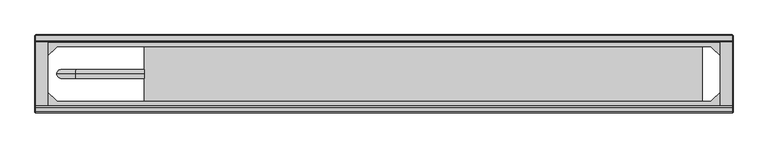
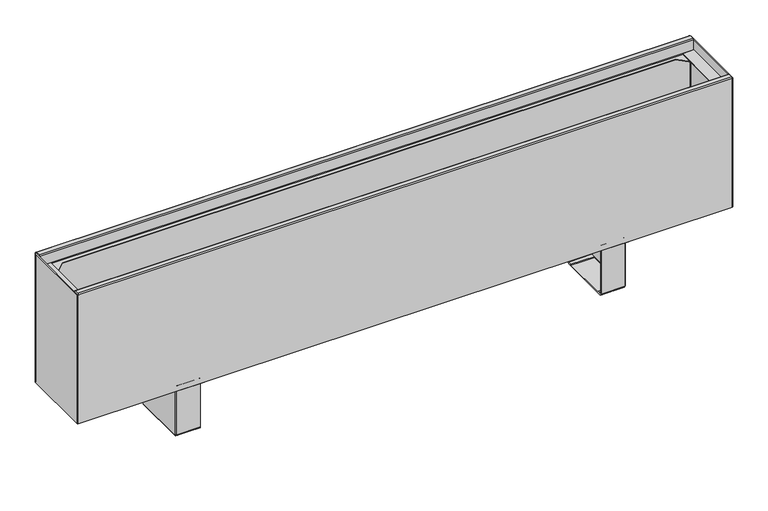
"""IFC4 building model written with IfcOpenShell, lengths in millimetres: proxy geometry, TECHNO_Конвектор напольный_Vita KPZ 135 : KPZ 135-250-2."""

from ifc_helpers import new_model, si_unit, point, frame, origin, place, context, project, spatial, polyline, circle_curve, ellipse_curve, trimmed, outline, extrude, source, transform, mapped, element, save
from ifc_brep_helpers import plane_surface, cylinder_surface, revolved_surface, advanced_brep


def mechanical_equipment_14c08a24(model_context):
    return source(origin(), model_context, "Body", "SolidModel", [
        advanced_brep(
        [(409.7, -116.8, 1.5), (409.7, -114.5, 3.8), (409.7, -114.5, 4.9), (409.7, -116.0, 4.9), (409.7, -116.0, 3.8), (409.7, -116.8, 3.0), (409.7, -124.5, 3.0), (409.7, -124.5, 1.5), (409.7, -117.6, 1.5), (409.7, -114.5, 97.7), (409.7, -113.7, 98.5), (409.7, -101.0, 98.5), (409.7, -101.0, 100.0), (409.7, -113.7, 100.0), (409.7, -116.0, 97.7), (409.7, -116.0, 95.5), (409.7, -114.5, 95.5), (409.7, -220.5, 3.8), (409.7, -218.2, 1.5), (409.7, -217.4, 1.5), (409.7, -210.5, 1.5), (409.7, -210.5, 3.0), (409.7, -218.2, 3.0), (409.7, -219.0, 3.8), (409.7, -219.0, 4.9), (409.7, -220.5, 4.9), (409.7, -219.0, 97.7), (409.7, -221.3, 100.0), (409.7, -234.0, 100.0), (409.7, -234.0, 98.5), (409.7, -221.3, 98.5), (409.7, -220.5, 97.7), (409.7, -220.5, 95.5), (409.7, -219.0, 95.5), (367.0, -220.5, 97.7), (367.0, -221.3, 98.5), (367.0, -234.0, 98.5), (367.0, -234.0, 100.0), (367.0, -221.3, 100.0), (367.0, -219.0, 97.7), (367.0, -219.0, 3.8), (367.0, -218.2, 3.0), (367.0, -210.5, 3.0), (367.0, -210.5, 1.5), (367.0, -124.5, 1.5), (367.0, -124.5, 3.0), (367.0, -116.8, 3.0), (367.0, -116.0, 3.8), (367.0, -116.0, 97.7), (367.0, -113.7, 100.0), (367.0, -101.0, 100.0), (367.0, -101.0, 98.5), (367.0, -113.7, 98.5), (367.0, -114.5, 97.7), (367.0, -114.5, 3.8), (367.0, -116.8, 1.5), (367.0, -117.6, 1.5), (367.0, -117.6, 0.0), (367.0, -217.4, 0.0), (367.0, -217.4, 1.5), (367.0, -218.2, 1.5), (367.0, -220.5, 3.8), (410.5, -116.8, 95.5), (410.5, -218.2, 95.5), (412.0, -218.2, 95.5), (412.0, -116.8, 95.5), (412.0, -116.8, 4.9), (412.0, -117.6, 4.9), (410.5, -117.6, 4.9), (410.5, -116.8, 4.9), (410.5, -218.2, 4.9), (410.5, -217.4, 4.9), (412.0, -217.4, 4.9), (412.0, -218.2, 4.9), (410.5, -117.6, 2.3), (410.5, -217.4, 2.3), (412.0, -217.4, 2.3), (412.0, -117.6, 2.3), (409.7, -117.6, 0.0), (409.7, -217.4, 0.0)],
        [
            (0, 1, circle_curve(frame((409.7, -116.8, 3.8), z_axis=(1.0, 0.0, 0.0), x_axis=(0.0, -1.0, 0.0)), 2.3)),
            (1, 2),
            (2, 3),
            (3, 4),
            (4, 5, circle_curve(frame((409.7, -116.8, 3.8), z_axis=(-1.0, 0.0, 0.0), x_axis=(0.0, -1.0, 0.0)), 0.8)),
            (5, 6),
            (6, 7),
            (7, 8),
            (8, 0),
            (9, 10, circle_curve(frame((409.7, -113.7, 97.7), z_axis=(-1.0, 0.0, 0.0), x_axis=(0.0, -1.0, 0.0)), 0.8)),
            (10, 11),
            (11, 12),
            (12, 13),
            (13, 14, circle_curve(frame((409.7, -113.7, 97.7), z_axis=(1.0, 0.0, 0.0), x_axis=(0.0, -1.0, 0.0)), 2.3)),
            (14, 15),
            (15, 16),
            (16, 9),
            (17, 18, circle_curve(frame((409.7, -218.2, 3.8), z_axis=(1.0, 0.0, 0.0), x_axis=(0.0, -1.0, 0.0)), 2.3)),
            (18, 19),
            (19, 20),
            (20, 21),
            (21, 22),
            (22, 23, circle_curve(frame((409.7, -218.2, 3.8), z_axis=(-1.0, 0.0, 0.0), x_axis=(0.0, -1.0, 0.0)), 0.8)),
            (23, 24),
            (24, 25),
            (25, 17),
            (26, 27, circle_curve(frame((409.7, -221.3, 97.7), z_axis=(1.0, 0.0, 0.0), x_axis=(0.0, -1.0, 0.0)), 2.3)),
            (27, 28),
            (28, 29),
            (29, 30),
            (30, 31, circle_curve(frame((409.7, -221.3, 97.7), z_axis=(-1.0, 0.0, 0.0), x_axis=(0.0, -1.0, 0.0)), 0.8)),
            (31, 32),
            (32, 33),
            (33, 26),
            (34, 35, circle_curve(frame((367.0, -221.3, 97.7), z_axis=(1.0, 0.0, 0.0), x_axis=(0.0, -1.0, 0.0)), 0.8)),
            (35, 36),
            (36, 37),
            (37, 38),
            (38, 39, circle_curve(frame((367.0, -221.3, 97.7), z_axis=(-1.0, 0.0, 0.0), x_axis=(0.0, -1.0, 0.0)), 2.3)),
            (39, 40),
            (40, 41, circle_curve(frame((367.0, -218.2, 3.8), z_axis=(1.0, 0.0, 0.0), x_axis=(0.0, -1.0, 0.0)), 0.8)),
            (41, 42),
            (42, 43),
            (43, 44),
            (44, 45),
            (45, 46),
            (46, 47, circle_curve(frame((367.0, -116.8, 3.8), z_axis=(1.0, 0.0, 0.0), x_axis=(0.0, -1.0, 0.0)), 0.8)),
            (47, 48),
            (48, 49, circle_curve(frame((367.0, -113.7, 97.7), z_axis=(-1.0, 0.0, 0.0), x_axis=(0.0, -1.0, 0.0)), 2.3)),
            (49, 50),
            (50, 51),
            (51, 52),
            (52, 53, circle_curve(frame((367.0, -113.7, 97.7), z_axis=(1.0, 0.0, 0.0), x_axis=(0.0, -1.0, 0.0)), 0.8)),
            (53, 54),
            (54, 55, circle_curve(frame((367.0, -116.8, 3.8), z_axis=(-1.0, 0.0, 0.0), x_axis=(0.0, -1.0, 0.0)), 2.3)),
            (55, 56),
            (56, 57),
            (57, 58),
            (58, 59),
            (59, 60),
            (60, 61, circle_curve(frame((367.0, -218.2, 3.8), z_axis=(-1.0, 0.0, 0.0), x_axis=(0.0, -1.0, 0.0)), 2.3)),
            (61, 34),
            (30, 35),
            (34, 31),
            (29, 36),
            (28, 37),
            (27, 38),
            (26, 39),
            (33, 24),
            (23, 40),
            (22, 41),
            (5, 46),
            (45, 6),
            (4, 47),
            (3, 15),
            (14, 48),
            (13, 49),
            (12, 50),
            (11, 51),
            (10, 52),
            (9, 53),
            (16, 2),
            (1, 54),
            (0, 55),
            (8, 56),
            (17, 61),
            (60, 18),
            (25, 32),
            (21, 42),
            (20, 43),
            (59, 19),
            (44, 7),
            (15, 62, circle_curve(frame((409.7, -116.8, 95.5), z_axis=(0.0, 0.0, -1.0), x_axis=(-1.0, 0.0, 0.0)), 0.8)),
            (62, 63),
            (63, 33, circle_curve(frame((409.7, -218.2, 95.5), z_axis=(0.0, 0.0, -1.0), x_axis=(-1.0, 0.0, 0.0)), 0.8)),
            (32, 64, circle_curve(frame((409.7, -218.2, 95.5), z_axis=(0.0, 0.0, 1.0), x_axis=(-1.0, 0.0, 0.0)), 2.3)),
            (64, 65),
            (65, 16, circle_curve(frame((409.7, -116.8, 95.5), z_axis=(0.0, 0.0, 1.0), x_axis=(-1.0, 0.0, 0.0)), 2.3)),
            (2, 66, circle_curve(frame((409.7, -116.8, 4.9), z_axis=(0.0, 0.0, -1.0), x_axis=(-1.0, 0.0, 0.0)), 2.3)),
            (66, 67),
            (67, 68),
            (68, 69),
            (69, 3, circle_curve(frame((409.7, -116.8, 4.9), z_axis=(0.0, 0.0, 1.0), x_axis=(-1.0, 0.0, 0.0)), 0.8)),
            (24, 70, circle_curve(frame((409.7, -218.2, 4.9), z_axis=(0.0, 0.0, 1.0), x_axis=(-1.0, 0.0, 0.0)), 0.8)),
            (70, 71),
            (71, 72),
            (72, 73),
            (73, 25, circle_curve(frame((409.7, -218.2, 4.9), z_axis=(0.0, 0.0, -1.0), x_axis=(-1.0, 0.0, 0.0)), 2.3)),
            (69, 62),
            (68, 74),
            (74, 75),
            (75, 71),
            (70, 63),
            (64, 73),
            (72, 76),
            (76, 77),
            (77, 67),
            (66, 65),
            (8, 74, circle_curve(frame((409.7, -117.6, 2.3), z_axis=(0.0, -1.0, 0.0), x_axis=(-1.0, 0.0, 0.0)), 0.8)),
            (77, 78, circle_curve(frame((409.7, -117.6, 2.3), z_axis=(0.0, 1.0, 0.0), x_axis=(-1.0, 0.0, 0.0)), 2.3)),
            (78, 57),
            (58, 79),
            (79, 76, circle_curve(frame((409.7, -217.4, 2.3), z_axis=(0.0, -1.0, 0.0), x_axis=(-1.0, 0.0, 0.0)), 2.3)),
            (75, 19, circle_curve(frame((409.7, -217.4, 2.3), z_axis=(0.0, 1.0, 0.0), x_axis=(-1.0, 0.0, 0.0)), 0.8)),
            (20, 7),
            (79, 78),
        ],
        [
            plane_surface(frame((409.7, -222.1, 97.7), z_axis=(1.0, 0.0, 0.0), x_axis=(0.0, 0.0, 1.0))),
            plane_surface(frame((367.0, -222.1, 97.7), z_axis=(-1.0, 0.0, 0.0), x_axis=(0.0, 0.0, -1.0))),
            revolved_surface(polyline([(409.7, -222.10000000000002, 97.7), (367.0, -222.10000000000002, 97.7)]), (409.7, -221.3, 97.7), (1.0, 0.0, 0.0)),
            plane_surface(frame((367.0, -221.3, 98.5), z_axis=(0.0, 0.0, -1.0), x_axis=(1.0, 0.0, 0.0))),
            plane_surface(frame((367.0, -234.0, 98.5), z_axis=(0.0, -1.0, 0.0), x_axis=(1.0, 0.0, 0.0))),
            plane_surface(frame((367.0, -234.0, 100.0), z_axis=(0.0, 0.0, 1.0), x_axis=(1.0, 0.0, 0.0))),
            cylinder_surface(frame((409.7, -221.3, 97.7), z_axis=(-1.0, 0.0, 0.0), x_axis=(0.0, -1.0, 0.0)), 2.3),
            plane_surface(frame((367.0, -219.0, 97.7), z_axis=(0.0, 1.0, 0.0), x_axis=(1.0, 0.0, 0.0))),
            revolved_surface(polyline([(409.7, -219.0, 3.8), (367.0, -219.0, 3.8)]), (409.7, -218.2, 3.8), (1.0, 0.0, 0.0)),
            plane_surface(frame((367.0, -124.5, 3.0), z_axis=(0.0, 0.0, 1.0), x_axis=(1.0, 0.0, 0.0))),
            revolved_surface(polyline([(409.7, -117.6, 3.8), (367.0, -117.6, 3.8)]), (412.0, -116.8, 3.8), (1.0, 0.0, 0.0)),
            plane_surface(frame((367.0, -116.0, 3.8), z_axis=(0.0, -1.0, 0.0), x_axis=(1.0, 0.0, 0.0))),
            cylinder_surface(frame((412.0, -113.7, 97.7), z_axis=(-1.0, 0.0, 0.0), x_axis=(0.0, -1.0, 0.0)), 2.3),
            plane_surface(frame((367.0, -113.7, 100.0), z_axis=(0.0, 0.0, 1.0), x_axis=(1.0, 0.0, 0.0))),
            plane_surface(frame((367.0, -101.0, 100.0), z_axis=(0.0, 1.0, 0.0), x_axis=(1.0, 0.0, 0.0))),
            plane_surface(frame((367.0, -101.0, 98.5), z_axis=(0.0, 0.0, -1.0), x_axis=(1.0, 0.0, 0.0))),
            revolved_surface(polyline([(409.7, -114.5, 97.7), (367.0, -114.5, 97.7)]), (412.0, -113.7, 97.7), (1.0, 0.0, 0.0)),
            plane_surface(frame((367.0, -114.5, 97.7), z_axis=(0.0, 1.0, 0.0), x_axis=(1.0, 0.0, 0.0))),
            cylinder_surface(frame((412.0, -116.8, 3.8), z_axis=(-1.0, 0.0, 0.0), x_axis=(0.0, -1.0, 0.0)), 2.3),
            plane_surface(frame((367.0, -116.8, 1.5), z_axis=(0.0, 0.0, -1.0), x_axis=(1.0, 0.0, 0.0))),
            cylinder_surface(frame((409.7, -218.2, 3.8), z_axis=(-1.0, 0.0, 0.0), x_axis=(0.0, -1.0, 0.0)), 2.3),
            plane_surface(frame((367.0, -220.5, 3.8), z_axis=(0.0, -1.0, 0.0), x_axis=(1.0, 0.0, 0.0))),
            plane_surface(frame((367.0, -218.2, 3.0), z_axis=(0.0, 0.0, 1.0), x_axis=(1.0, 0.0, 0.0))),
            plane_surface(frame((367.0, -210.5, 3.0), z_axis=(0.0, 1.0, 0.0), x_axis=(1.0, 0.0, 0.0))),
            plane_surface(frame((367.0, -210.5, 1.5), z_axis=(0.0, 0.0, -1.0), x_axis=(1.0, 0.0, 0.0))),
            plane_surface(frame((367.0, -124.5, 1.5), z_axis=(0.0, -1.0, 0.0), x_axis=(1.0, 0.0, 0.0))),
            plane_surface(frame((409.7, -116.0, 95.5), z_axis=(0.0, 0.0, 1.0), x_axis=(0.0, -1.0, 0.0))),
            plane_surface(frame((409.7, -116.0, 4.9), z_axis=(0.0, 0.0, -1.0), x_axis=(0.0, 1.0, 0.0))),
            revolved_surface(polyline([(408.9, -116.8, 4.9), (408.9, -116.8, 95.5)]), (409.7, -116.8, 4.9), (0.0, 0.0, -1.0)),
            plane_surface(frame((410.5, -116.8, 95.5), z_axis=(-1.0, 0.0, 0.0), x_axis=(0.0, 0.0, -1.0))),
            plane_surface(frame((412.0, -117.6, 95.5), z_axis=(1.0, 0.0, 0.0), x_axis=(0.0, 0.0, -1.0))),
            cylinder_surface(frame((409.7, -116.8, 4.9), z_axis=(0.0, 0.0, 1.0), x_axis=(-1.0, 0.0, 0.0)), 2.3),
            cylinder_surface(frame((409.7, -218.2, 0.0), z_axis=(0.0, 0.0, 1.0), x_axis=(-1.0, 0.0, 0.0)), 2.3),
            revolved_surface(polyline([(408.9, -218.2, 4.9), (408.9, -218.2, 95.5)]), (409.7, -218.2, 0.0), (0.0, 0.0, -1.0)),
            plane_surface(frame((367.0, -117.6, 1.5), z_axis=(0.0, 1.0, 0.0), x_axis=(0.0, 0.0, 1.0))),
            plane_surface(frame((367.0, -217.4, 1.5), z_axis=(0.0, -1.0, 0.0), x_axis=(0.0, 0.0, -1.0))),
            plane_surface(frame((367.0, -117.6, 1.5), z_axis=(0.0, 0.0, 1.0), x_axis=(0.0, -1.0, 0.0))),
            revolved_surface(polyline([(408.9, -217.4, 2.3), (408.9, -117.6, 2.3)]), (409.7, -217.4, 2.3), (0.0, -1.0, 0.0)),
            cylinder_surface(frame((409.7, -217.4, 2.3), z_axis=(0.0, 1.0, 0.0), x_axis=(-1.0, 0.0, 0.0)), 2.3),
            plane_surface(frame((409.7, -117.6, 0.0), z_axis=(0.0, 0.0, -1.0), x_axis=(0.0, -1.0, 0.0))),
        ],
        [
            (0, [[1, 2, 3, 4, 5, 6, 7, 8, 9]]),
            (0, [[10, 11, 12, 13, 14, 15, 16, 17]]),
            (0, [[18, 19, 20, 21, 22, 23, 24, 25, 26]]),
            (0, [[27, 28, 29, 30, 31, 32, 33, 34]]),
            (1, [[35, 36, 37, 38, 39, 40, 41, 42, 43, 44, 45, 46, 47, 48, 49, 50, 51, 52, 53, 54, 55, 56, 57, 58, 59, 60, 61, 62]]),
            (2, [[-31, 63, -35, 64]]),
            (3, [[-30, 65, -36, -63]]),
            (4, [[-29, 66, -37, -65]]),
            (5, [[-28, 67, -38, -66]]),
            (6, [[-27, 68, -39, -67]]),
            (7, [[-40, -68, -34, 69, -24, 70]]),
            (8, [[-23, 71, -41, -70]]),
            (9, [[-6, 72, -46, 73]]),
            (10, [[-5, 74, -47, -72]]),
            (11, [[-48, -74, -4, 75, -15, 76]]),
            (12, [[-14, 77, -49, -76]]),
            (13, [[-13, 78, -50, -77]]),
            (14, [[-12, 79, -51, -78]]),
            (15, [[-11, 80, -52, -79]]),
            (16, [[-10, 81, -53, -80]]),
            (17, [[-54, -81, -17, 82, -2, 83]]),
            (18, [[-1, 84, -55, -83]]),
            (19, [[-84, -9, 85, -56]]),
            (20, [[-18, 86, -61, 87]]),
            (21, [[-62, -86, -26, 88, -32, -64]]),
            (22, [[-22, 89, -42, -71]]),
            (23, [[-21, 90, -43, -89]]),
            (24, [[-87, -60, 91, -19]]),
            (25, [[-7, -73, -45, 92]]),
            (26, [[93, 94, 95, -33, 96, 97, 98, -16]]),
            (27, [[99, 100, 101, 102, 103, -3]]),
            (27, [[104, 105, 106, 107, 108, -25]]),
            (28, [[-93, -75, -103, 109]]),
            (29, [[-94, -109, -102, 110, 111, 112, -105, 113]]),
            (30, [[-97, 114, -107, 115, 116, 117, -100, 118]]),
            (31, [[-98, -118, -99, -82]]),
            (32, [[-96, -88, -108, -114]]),
            (33, [[-95, -113, -104, -69]]),
            (34, [[-57, -85, 119, -110, -101, -117, 120, 121]]),
            (35, [[122, 123, -115, -106, -112, 124, -91, -59]]),
            (36, [[125, -92, -44, -90]]),
            (37, [[-119, -8, -125, -20, -124, -111]]),
            (38, [[-120, -116, -123, 126]]),
            (39, [[-121, -126, -122, -58]]),
        ],
    ),
        advanced_brep(
        [(-409.7, -218.2, 1.5), (-409.7, -220.5, 3.8), (-409.7, -220.5, 4.9), (-409.7, -219.0, 4.9), (-409.7, -219.0, 3.8), (-409.7, -218.2, 3.0), (-409.7, -210.5, 3.0), (-409.7, -210.5, 1.5), (-409.7, -217.4, 1.5), (-409.7, -220.5, 97.7), (-409.7, -221.3, 98.5), (-409.7, -234.0, 98.5), (-409.7, -234.0, 100.0), (-409.7, -221.3, 100.0), (-409.7, -219.0, 97.7), (-409.7, -219.0, 95.5), (-409.7, -220.5, 95.5), (-409.7, -114.5, 3.8), (-409.7, -116.8, 1.5), (-409.7, -117.6, 1.5), (-409.7, -124.5, 1.5), (-409.7, -124.5, 3.0), (-409.7, -116.8, 3.0), (-409.7, -116.0, 3.8), (-409.7, -116.0, 4.9), (-409.7, -114.5, 4.9), (-409.7, -116.0, 97.7), (-409.7, -113.7, 100.0), (-409.7, -101.0, 100.0), (-409.7, -101.0, 98.5), (-409.7, -113.7, 98.5), (-409.7, -114.5, 97.7), (-409.7, -114.5, 95.5), (-409.7, -116.0, 95.5), (-367.0, -114.5, 97.7), (-367.0, -113.7, 98.5), (-367.0, -101.0, 98.5), (-367.0, -101.0, 100.0), (-367.0, -113.7, 100.0), (-367.0, -116.0, 97.7), (-367.0, -116.0, 3.8), (-367.0, -116.8, 3.0), (-367.0, -124.5, 3.0), (-367.0, -124.5, 1.5), (-367.0, -210.5, 1.5), (-367.0, -210.5, 3.0), (-367.0, -218.2, 3.0), (-367.0, -219.0, 3.8), (-367.0, -219.0, 97.7), (-367.0, -221.3, 100.0), (-367.0, -234.0, 100.0), (-367.0, -234.0, 98.5), (-367.0, -221.3, 98.5), (-367.0, -220.5, 97.7), (-367.0, -220.5, 3.8), (-367.0, -218.2, 1.5), (-367.0, -217.4, 1.5), (-367.0, -217.4, 0.0), (-367.0, -117.6, 0.0), (-367.0, -117.6, 1.5), (-367.0, -116.8, 1.5), (-367.0, -114.5, 3.8), (-410.5, -218.2, 95.5), (-410.5, -116.8, 95.5), (-412.0, -116.8, 95.5), (-412.0, -218.2, 95.5), (-412.0, -218.2, 4.9), (-412.0, -217.4, 4.9), (-410.5, -217.4, 4.9), (-410.5, -218.2, 4.9), (-410.5, -116.8, 4.9), (-410.5, -117.6, 4.9), (-412.0, -117.6, 4.9), (-412.0, -116.8, 4.9), (-410.5, -217.4, 2.3), (-410.5, -117.6, 2.3), (-412.0, -117.6, 2.3), (-412.0, -217.4, 2.3), (-409.7, -217.4, 0.0), (-409.7, -117.6, 0.0)],
        [
            (0, 1, circle_curve(frame((-409.7, -218.2, 3.8), z_axis=(-1.0, 0.0, 0.0), x_axis=(0.0, 1.0, 0.0)), 2.3)),
            (1, 2),
            (2, 3),
            (3, 4),
            (4, 5, circle_curve(frame((-409.7, -218.2, 3.8), z_axis=(1.0, 0.0, 0.0), x_axis=(0.0, 1.0, 0.0)), 0.8)),
            (5, 6),
            (6, 7),
            (7, 8),
            (8, 0),
            (9, 10, circle_curve(frame((-409.7, -221.3, 97.7), z_axis=(1.0, 0.0, 0.0), x_axis=(0.0, 1.0, 0.0)), 0.8)),
            (10, 11),
            (11, 12),
            (12, 13),
            (13, 14, circle_curve(frame((-409.7, -221.3, 97.7), z_axis=(-1.0, 0.0, 0.0), x_axis=(0.0, 1.0, 0.0)), 2.3)),
            (14, 15),
            (15, 16),
            (16, 9),
            (17, 18, circle_curve(frame((-409.7, -116.8, 3.8), z_axis=(-1.0, 0.0, 0.0), x_axis=(0.0, 1.0, 0.0)), 2.3)),
            (18, 19),
            (19, 20),
            (20, 21),
            (21, 22),
            (22, 23, circle_curve(frame((-409.7, -116.8, 3.8), z_axis=(1.0, 0.0, 0.0), x_axis=(0.0, 1.0, 0.0)), 0.8)),
            (23, 24),
            (24, 25),
            (25, 17),
            (26, 27, circle_curve(frame((-409.7, -113.7, 97.7), z_axis=(-1.0, 0.0, 0.0), x_axis=(0.0, 1.0, 0.0)), 2.3)),
            (27, 28),
            (28, 29),
            (29, 30),
            (30, 31, circle_curve(frame((-409.7, -113.7, 97.7), z_axis=(1.0, 0.0, 0.0), x_axis=(0.0, 1.0, 0.0)), 0.8)),
            (31, 32),
            (32, 33),
            (33, 26),
            (34, 35, circle_curve(frame((-367.0, -113.7, 97.7), z_axis=(-1.0, 0.0, 0.0), x_axis=(0.0, 1.0, 0.0)), 0.8)),
            (35, 36),
            (36, 37),
            (37, 38),
            (38, 39, circle_curve(frame((-367.0, -113.7, 97.7), z_axis=(1.0, 0.0, 0.0), x_axis=(0.0, 1.0, 0.0)), 2.3)),
            (39, 40),
            (40, 41, circle_curve(frame((-367.0, -116.8, 3.8), z_axis=(-1.0, 0.0, 0.0), x_axis=(0.0, 1.0, 0.0)), 0.8)),
            (41, 42),
            (42, 43),
            (43, 44),
            (44, 45),
            (45, 46),
            (46, 47, circle_curve(frame((-367.0, -218.2, 3.8), z_axis=(-1.0, 0.0, 0.0), x_axis=(0.0, 1.0, 0.0)), 0.8)),
            (47, 48),
            (48, 49, circle_curve(frame((-367.0, -221.3, 97.7), z_axis=(1.0, 0.0, 0.0), x_axis=(0.0, 1.0, 0.0)), 2.3)),
            (49, 50),
            (50, 51),
            (51, 52),
            (52, 53, circle_curve(frame((-367.0, -221.3, 97.7), z_axis=(-1.0, 0.0, 0.0), x_axis=(0.0, 1.0, 0.0)), 0.8)),
            (53, 54),
            (54, 55, circle_curve(frame((-367.0, -218.2, 3.8), z_axis=(1.0, 0.0, 0.0), x_axis=(0.0, 1.0, 0.0)), 2.3)),
            (55, 56),
            (56, 57),
            (57, 58),
            (58, 59),
            (59, 60),
            (60, 61, circle_curve(frame((-367.0, -116.8, 3.8), z_axis=(1.0, 0.0, 0.0), x_axis=(0.0, 1.0, 0.0)), 2.3)),
            (61, 34),
            (30, 35),
            (34, 31),
            (29, 36),
            (28, 37),
            (27, 38),
            (26, 39),
            (33, 24),
            (23, 40),
            (22, 41),
            (5, 46),
            (45, 6),
            (4, 47),
            (3, 15),
            (14, 48),
            (13, 49),
            (12, 50),
            (11, 51),
            (10, 52),
            (9, 53),
            (16, 2),
            (1, 54),
            (0, 55),
            (8, 56),
            (17, 61),
            (60, 18),
            (25, 32),
            (21, 42),
            (20, 43),
            (59, 19),
            (44, 7),
            (15, 62, circle_curve(frame((-409.7, -218.2, 95.5), z_axis=(0.0, 0.0, -1.0), x_axis=(1.0, 0.0, 0.0)), 0.8)),
            (62, 63),
            (63, 33, circle_curve(frame((-409.7, -116.8, 95.5), z_axis=(0.0, 0.0, -1.0), x_axis=(1.0, 0.0, 0.0)), 0.8)),
            (32, 64, circle_curve(frame((-409.7, -116.8, 95.5), z_axis=(0.0, 0.0, 1.0), x_axis=(1.0, 0.0, 0.0)), 2.3)),
            (64, 65),
            (65, 16, circle_curve(frame((-409.7, -218.2, 95.5), z_axis=(0.0, 0.0, 1.0), x_axis=(1.0, 0.0, 0.0)), 2.3)),
            (2, 66, circle_curve(frame((-409.7, -218.2, 4.9), z_axis=(0.0, 0.0, -1.0), x_axis=(1.0, 0.0, 0.0)), 2.3)),
            (66, 67),
            (67, 68),
            (68, 69),
            (69, 3, circle_curve(frame((-409.7, -218.2, 4.9), z_axis=(0.0, 0.0, 1.0), x_axis=(1.0, 0.0, 0.0)), 0.8)),
            (24, 70, circle_curve(frame((-409.7, -116.8, 4.9), z_axis=(0.0, 0.0, 1.0), x_axis=(1.0, 0.0, 0.0)), 0.8)),
            (70, 71),
            (71, 72),
            (72, 73),
            (73, 25, circle_curve(frame((-409.7, -116.8, 4.9), z_axis=(0.0, 0.0, -1.0), x_axis=(1.0, 0.0, 0.0)), 2.3)),
            (69, 62),
            (68, 74),
            (74, 75),
            (75, 71),
            (70, 63),
            (64, 73),
            (72, 76),
            (76, 77),
            (77, 67),
            (66, 65),
            (8, 74, circle_curve(frame((-409.7, -217.4, 2.3), z_axis=(0.0, 1.0, 0.0), x_axis=(1.0, 0.0, 0.0)), 0.8)),
            (77, 78, circle_curve(frame((-409.7, -217.4, 2.3), z_axis=(0.0, -1.0, 0.0), x_axis=(1.0, 0.0, 0.0)), 2.3)),
            (78, 57),
            (58, 79),
            (79, 76, circle_curve(frame((-409.7, -117.6, 2.3), z_axis=(0.0, 1.0, 0.0), x_axis=(1.0, 0.0, 0.0)), 2.3)),
            (75, 19, circle_curve(frame((-409.7, -117.6, 2.3), z_axis=(0.0, -1.0, 0.0), x_axis=(1.0, 0.0, 0.0)), 0.8)),
            (20, 7),
            (79, 78),
        ],
        [
            plane_surface(frame((-409.7, -112.9, 97.7), z_axis=(-1.0, 0.0, 0.0), x_axis=(0.0, 0.0, 1.0))),
            plane_surface(frame((-367.0, -112.9, 97.7), z_axis=(1.0, 0.0, 0.0), x_axis=(0.0, 0.0, -1.0))),
            revolved_surface(polyline([(-409.7, -112.9, 97.7), (-367.0, -112.9, 97.7)]), (-409.7, -113.7, 97.7), (-1.0, 0.0, 0.0)),
            plane_surface(frame((-367.0, -113.7, 98.5), z_axis=(0.0, 0.0, -1.0), x_axis=(-1.0, 0.0, 0.0))),
            plane_surface(frame((-367.0, -101.0, 98.5), z_axis=(0.0, 1.0, 0.0), x_axis=(-1.0, 0.0, 0.0))),
            plane_surface(frame((-367.0, -101.0, 100.0), z_axis=(0.0, 0.0, 1.0), x_axis=(-1.0, 0.0, 0.0))),
            cylinder_surface(frame((-409.7, -113.7, 97.7), z_axis=(1.0, 0.0, 0.0), x_axis=(0.0, 1.0, 0.0)), 2.3),
            plane_surface(frame((-367.0, -116.0, 97.7), z_axis=(0.0, -1.0, 0.0), x_axis=(-1.0, 0.0, 0.0))),
            revolved_surface(polyline([(-409.7, -116.0, 3.8), (-367.0, -116.0, 3.8)]), (-409.7, -116.8, 3.8), (-1.0, 0.0, 0.0)),
            plane_surface(frame((-367.0, -210.5, 3.0), z_axis=(0.0, 0.0, 1.0), x_axis=(-1.0, 0.0, 0.0))),
            revolved_surface(polyline([(-409.7, -217.39999999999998, 3.8), (-367.0, -217.39999999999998, 3.8)]), (-412.0, -218.2, 3.8), (-1.0, 0.0, 0.0)),
            plane_surface(frame((-367.0, -219.0, 3.8), z_axis=(0.0, 1.0, 0.0), x_axis=(-1.0, 0.0, 0.0))),
            cylinder_surface(frame((-412.0, -221.3, 97.7), z_axis=(1.0, 0.0, 0.0), x_axis=(0.0, 1.0, 0.0)), 2.3),
            plane_surface(frame((-367.0, -221.3, 100.0), z_axis=(0.0, 0.0, 1.0), x_axis=(-1.0, 0.0, 0.0))),
            plane_surface(frame((-367.0, -234.0, 100.0), z_axis=(0.0, -1.0, 0.0), x_axis=(-1.0, 0.0, 0.0))),
            plane_surface(frame((-367.0, -234.0, 98.5), z_axis=(0.0, 0.0, -1.0), x_axis=(-1.0, 0.0, 0.0))),
            revolved_surface(polyline([(-409.7, -220.5, 97.7), (-367.0, -220.5, 97.7)]), (-412.0, -221.3, 97.7), (-1.0, 0.0, 0.0)),
            plane_surface(frame((-367.0, -220.5, 97.7), z_axis=(0.0, -1.0, 0.0), x_axis=(-1.0, 0.0, 0.0))),
            cylinder_surface(frame((-412.0, -218.2, 3.8), z_axis=(1.0, 0.0, 0.0), x_axis=(0.0, 1.0, 0.0)), 2.3),
            plane_surface(frame((-367.0, -218.2, 1.5), z_axis=(0.0, 0.0, -1.0), x_axis=(-1.0, 0.0, 0.0))),
            cylinder_surface(frame((-409.7, -116.8, 3.8), z_axis=(1.0, 0.0, 0.0), x_axis=(0.0, 1.0, 0.0)), 2.3),
            plane_surface(frame((-367.0, -114.5, 3.8), z_axis=(0.0, 1.0, 0.0), x_axis=(-1.0, 0.0, 0.0))),
            plane_surface(frame((-367.0, -116.8, 3.0), z_axis=(0.0, 0.0, 1.0), x_axis=(-1.0, 0.0, 0.0))),
            plane_surface(frame((-367.0, -124.5, 3.0), z_axis=(0.0, -1.0, 0.0), x_axis=(-1.0, 0.0, 0.0))),
            plane_surface(frame((-367.0, -124.5, 1.5), z_axis=(0.0, 0.0, -1.0), x_axis=(-1.0, 0.0, 0.0))),
            plane_surface(frame((-367.0, -210.5, 1.5), z_axis=(0.0, 1.0, 0.0), x_axis=(-1.0, 0.0, 0.0))),
            plane_surface(frame((-409.7, -219.0, 95.5), z_axis=(0.0, 0.0, 1.0), x_axis=(0.0, 1.0, 0.0))),
            plane_surface(frame((-409.7, -219.0, 4.9), z_axis=(0.0, 0.0, -1.0), x_axis=(0.0, -1.0, 0.0))),
            revolved_surface(polyline([(-408.9, -218.2, 4.9), (-408.9, -218.2, 95.5)]), (-409.7, -218.2, 4.9), (0.0, 0.0, -1.0)),
            plane_surface(frame((-410.5, -218.2, 95.5), z_axis=(1.0, 0.0, 0.0), x_axis=(0.0, 0.0, -1.0))),
            plane_surface(frame((-412.0, -217.4, 95.5), z_axis=(-1.0, 0.0, 0.0), x_axis=(0.0, 0.0, -1.0))),
            cylinder_surface(frame((-409.7, -218.2, 4.9), z_axis=(0.0, 0.0, 1.0), x_axis=(1.0, 0.0, 0.0)), 2.3),
            cylinder_surface(frame((-409.7, -116.8, 0.0), z_axis=(0.0, 0.0, 1.0), x_axis=(1.0, 0.0, 0.0)), 2.3),
            revolved_surface(polyline([(-408.9, -116.8, 4.9), (-408.9, -116.8, 95.5)]), (-409.7, -116.8, 0.0), (0.0, 0.0, -1.0)),
            plane_surface(frame((-367.0, -217.4, 1.5), z_axis=(0.0, -1.0, 0.0), x_axis=(0.0, 0.0, 1.0))),
            plane_surface(frame((-367.0, -117.6, 1.5), z_axis=(0.0, 1.0, 0.0), x_axis=(0.0, 0.0, -1.0))),
            plane_surface(frame((-367.0, -217.4, 1.5), z_axis=(0.0, 0.0, 1.0), x_axis=(0.0, 1.0, 0.0))),
            revolved_surface(polyline([(-408.9, -117.6, 2.3), (-408.9, -217.4, 2.3)]), (-409.7, -117.6, 2.3), (0.0, 1.0, 0.0)),
            cylinder_surface(frame((-409.7, -117.6, 2.3), z_axis=(0.0, -1.0, 0.0), x_axis=(1.0, 0.0, 0.0)), 2.3),
            plane_surface(frame((-409.7, -217.4, 0.0), z_axis=(0.0, 0.0, -1.0), x_axis=(0.0, 1.0, 0.0))),
        ],
        [
            (0, [[1, 2, 3, 4, 5, 6, 7, 8, 9]]),
            (0, [[10, 11, 12, 13, 14, 15, 16, 17]]),
            (0, [[18, 19, 20, 21, 22, 23, 24, 25, 26]]),
            (0, [[27, 28, 29, 30, 31, 32, 33, 34]]),
            (1, [[35, 36, 37, 38, 39, 40, 41, 42, 43, 44, 45, 46, 47, 48, 49, 50, 51, 52, 53, 54, 55, 56, 57, 58, 59, 60, 61, 62]]),
            (2, [[-31, 63, -35, 64]]),
            (3, [[-30, 65, -36, -63]]),
            (4, [[-29, 66, -37, -65]]),
            (5, [[-28, 67, -38, -66]]),
            (6, [[-27, 68, -39, -67]]),
            (7, [[-40, -68, -34, 69, -24, 70]]),
            (8, [[-23, 71, -41, -70]]),
            (9, [[-6, 72, -46, 73]]),
            (10, [[-5, 74, -47, -72]]),
            (11, [[-48, -74, -4, 75, -15, 76]]),
            (12, [[-14, 77, -49, -76]]),
            (13, [[-13, 78, -50, -77]]),
            (14, [[-12, 79, -51, -78]]),
            (15, [[-11, 80, -52, -79]]),
            (16, [[-10, 81, -53, -80]]),
            (17, [[-54, -81, -17, 82, -2, 83]]),
            (18, [[-1, 84, -55, -83]]),
            (19, [[-84, -9, 85, -56]]),
            (20, [[-18, 86, -61, 87]]),
            (21, [[-62, -86, -26, 88, -32, -64]]),
            (22, [[-22, 89, -42, -71]]),
            (23, [[-21, 90, -43, -89]]),
            (24, [[-87, -60, 91, -19]]),
            (25, [[-7, -73, -45, 92]]),
            (26, [[93, 94, 95, -33, 96, 97, 98, -16]]),
            (27, [[99, 100, 101, 102, 103, -3]]),
            (27, [[104, 105, 106, 107, 108, -25]]),
            (28, [[-93, -75, -103, 109]]),
            (29, [[-94, -109, -102, 110, 111, 112, -105, 113]]),
            (30, [[-97, 114, -107, 115, 116, 117, -100, 118]]),
            (31, [[-98, -118, -99, -82]]),
            (32, [[-96, -88, -108, -114]]),
            (33, [[-95, -113, -104, -69]]),
            (34, [[-57, -85, 119, -110, -101, -117, 120, 121]]),
            (35, [[122, 123, -115, -106, -112, 124, -91, -59]]),
            (36, [[125, -92, -44, -90]]),
            (37, [[-119, -8, -125, -20, -124, -111]]),
            (38, [[-120, -116, -123, 126]]),
            (39, [[-121, -126, -122, -58]]),
        ],
    ),
        advanced_brep(
        [(-412.0, -167.5, 186.5), (-412.0, -167.5, 171.5), (-530.0, -167.5, 186.5), (-530.0, -167.5, 171.5), (-547.5, -167.5, 154.0), (-562.5, -167.5, 154.0), (-562.5, -167.5, 100.0), (-547.5, -167.5, 100.0)],
        [
            (0, 1, circle_curve(frame((-412.0, -167.5, 179.0), z_axis=(1.0, 0.0, 0.0), x_axis=(0.0, 0.0, -1.0)), 7.5)),
            (1, 0, circle_curve(frame((-412.0, -167.5, 179.0), z_axis=(1.0, 0.0, 0.0), x_axis=(0.0, 0.0, -1.0)), 7.5)),
            (0, 2),
            (2, 3, circle_curve(frame((-530.0, -167.5, 179.0), z_axis=(1.0, 0.0, 0.0), x_axis=(0.0, 0.0, -1.0)), 7.5)),
            (3, 1),
            (3, 2, circle_curve(frame((-530.0, -167.5, 179.0), z_axis=(1.0, 0.0, 0.0), x_axis=(0.0, 0.0, -1.0)), 7.5)),
            (4, 3, circle_curve(frame((-530.0, -167.5, 154.0), z_axis=(0.0, 1.0, 0.0), x_axis=(0.0, 0.0, 1.0)), 17.5)),
            (2, 5, circle_curve(frame((-530.0, -167.5, 154.0), z_axis=(0.0, -1.0, 0.0), x_axis=(0.0, 0.0, 1.0)), 32.5)),
            (5, 4, circle_curve(frame((-555.0, -167.5, 154.0), z_axis=(0.0, 0.0, 1.0), x_axis=(1.0, 0.0, 0.0)), 7.5)),
            (4, 5, circle_curve(frame((-555.0, -167.5, 154.0), z_axis=(0.0, 0.0, 1.0), x_axis=(1.0, 0.0, 0.0)), 7.5)),
            (6, 7, circle_curve(frame((-555.0, -167.5, 100.0), z_axis=(0.0, 0.0, -1.0), x_axis=(1.0, 0.0, 0.0)), 7.5)),
            (7, 6, circle_curve(frame((-555.0, -167.5, 100.0), z_axis=(0.0, 0.0, -1.0), x_axis=(1.0, 0.0, 0.0)), 7.5)),
            (5, 6),
            (7, 4),
        ],
        [
            plane_surface(frame((-412.0, -167.5, 179.0), z_axis=(1.0, 0.0, 0.0), x_axis=(0.0, -1.0, 0.0))),
            cylinder_surface(frame((-412.0, -167.5, 179.0), z_axis=(1.0, 0.0, 0.0), x_axis=(0.0, 0.0, -1.0)), 7.5),
            revolved_surface(trimmed(ellipse_curve(frame((-530.0, -167.5, 179.0), z_axis=(1.0, 0.0, 0.0), x_axis=(0.0, 0.0, -1.0)), 7.5, 7.5), [point((-530.0, -167.5, 186.5))], [point((-530.0, -167.5, 171.5))], True, "CARTESIAN"), (-530.0, -167.5, 154.0), (0.0, -1.0, 0.0)),
            revolved_surface(trimmed(ellipse_curve(frame((-530.0, -167.5, 179.0), z_axis=(1.0, 0.0, 0.0), x_axis=(0.0, 0.0, -1.0)), 7.5, 7.5), [point((-530.0, -167.5, 171.5))], [point((-530.0, -167.5, 186.5))], True, "CARTESIAN"), (-530.0, -167.5, 154.0), (0.0, -1.0, 0.0)),
            plane_surface(frame((-555.0, -167.5, 100.0), z_axis=(0.0, 0.0, -1.0), x_axis=(0.0, -1.0, 0.0))),
            cylinder_surface(frame((-555.0, -167.5, 154.0), z_axis=(0.0, 0.0, 1.0), x_axis=(1.0, 0.0, 0.0)), 7.5),
        ],
        [
            (0, [[1, 2]]),
            (1, [[-1, 3, 4, 5]]),
            (1, [[-2, -5, 6, -3]]),
            (2, [[7, -4, 8, 9]]),
            (3, [[-8, -6, -7, 10]]),
            (4, [[11, 12]]),
            (5, [[-9, 13, -12, 14]]),
            (5, [[-10, -14, -11, -13]]),
        ],
    ),
        advanced_brep(
        [(-412.0, -167.5, 136.5), (-412.0, -167.5, 121.5), (-512.5, -167.5, 136.5), (-497.5, -167.5, 121.5), (-512.5, -167.5, 100.0), (-497.5, -167.5, 100.0)],
        [
            (0, 1, circle_curve(frame((-412.0, -167.5, 129.0), z_axis=(1.0, 0.0, 0.0), x_axis=(0.0, 0.0, -1.0)), 7.5)),
            (1, 0, circle_curve(frame((-412.0, -167.5, 129.0), z_axis=(1.0, 0.0, 0.0), x_axis=(0.0, 0.0, -1.0)), 7.5)),
            (0, 2),
            (2, 3, ellipse_curve(frame((-505.0, -167.5, 129.0), z_axis=(0.7071067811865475, 0.0, 0.7071067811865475), x_axis=(0.7071067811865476, 0.0, -0.7071067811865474)), 10.6066017, 7.5)),
            (3, 1),
            (3, 2, ellipse_curve(frame((-505.0, -167.5, 129.0), z_axis=(0.7071067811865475, 0.0, 0.7071067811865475), x_axis=(0.7071067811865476, 0.0, -0.7071067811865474)), 10.6066017, 7.5)),
            (4, 5, circle_curve(frame((-505.0, -167.5, 100.0), z_axis=(0.0, 0.0, -1.0), x_axis=(1.0, 0.0, 0.0)), 7.5)),
            (5, 4, circle_curve(frame((-505.0, -167.5, 100.0), z_axis=(0.0, 0.0, -1.0), x_axis=(1.0, 0.0, 0.0)), 7.5)),
            (2, 4),
            (5, 3),
        ],
        [
            plane_surface(frame((-412.0, -167.5, 129.0), z_axis=(1.0, 0.0, 0.0), x_axis=(0.0, -1.0, 0.0))),
            cylinder_surface(frame((-412.0, -167.5, 129.0), z_axis=(1.0, 0.0, 0.0), x_axis=(0.0, 0.0, -1.0)), 7.5),
            plane_surface(frame((-505.0, -167.5, 100.0), z_axis=(0.0, 0.0, -1.0), x_axis=(0.0, -1.0, 0.0))),
            cylinder_surface(frame((-505.0, -167.5, 129.0), z_axis=(0.0, 0.0, 1.0), x_axis=(1.0, 0.0, 0.0)), 7.5),
        ],
        [
            (0, [[1, 2]]),
            (1, [[-1, 3, 4, 5]]),
            (1, [[-2, -5, 6, -3]]),
            (2, [[7, 8]]),
            (3, [[-4, 9, -8, 10]]),
            (3, [[-6, -10, -7, -9]]),
        ],
    ),
        extrude(outline(polyline([(547.0, -117.5), (547.0, -217.5), (-412.0, -217.5), (-412.0, -117.5), (547.0, -117.5)])), frame((0.0, 0.0, 103.87), z_axis=(0.0, 0.0, 1.0), x_axis=(1.0, 0.0, 0.0)), (0.0, 0.0, 1.0), 50.0),
        extrude(outline(polyline([(-585.5004, -102.0), (-585.5004, -233.0), (-599.0, -233.0), (-599.0, -102.0), (-585.5004, -102.0)])), frame((0.0, 0.0, 101.83), z_axis=(0.0, 0.0, 1.0), x_axis=(1.0, 0.0, 0.0)), (0.0, 0.0, 1.0), 1.0002),
        extrude(outline(polyline([(585.5004, -102.0), (599.0, -102.0), (599.0, -233.0), (585.5004, -233.0), (585.5004, -102.0)])), frame((0.0, 0.0, 101.83), z_axis=(0.0, 0.0, 1.0), x_axis=(1.0, 0.0, 0.0)), (0.0, 0.0, 1.0), 1.0002),
        extrude(outline(polyline([(-599.0, -222.2), (-599.0, -112.8), (-578.0, -112.8), (-578.0, -222.2), (-599.0, -222.2)])), frame((0.0, 0.0, 328.83), z_axis=(0.0, 0.0, 1.0), x_axis=(1.0, 0.0, 0.0)), (0.0, 0.0, 1.0), 1.0002),
        extrude(outline(polyline([(599.0, -222.2), (578.0, -222.2), (578.0, -112.8), (599.0, -112.8), (599.0, -222.2)])), frame((0.0, 0.0, 328.83), z_axis=(0.0, 0.0, 1.0), x_axis=(1.0, 0.0, 0.0)), (0.0, 0.0, 1.0), 1.0002),
        advanced_brep(
        [(-598.2, -101.8, 350.83), (-598.2, -100.0, 349.03), (-598.2, -101.0, 349.03), (-598.2, -101.0, 327.83), (-598.2, -138.5, 327.83), (-598.2, -138.5, 328.83), (-598.2, -112.8, 328.83), (-598.2, -112.0, 329.63), (-598.2, -112.0, 349.03), (-598.2, -110.2, 350.83), (-598.2, -233.2, 350.83), (-598.2, -224.8, 350.83), (-598.2, -223.0, 349.03), (-598.2, -223.0, 329.63), (-598.2, -222.2, 328.83), (-598.2, -196.5, 328.83), (-598.2, -196.5, 327.83), (-598.2, -234.0, 327.83), (-598.2, -234.0, 349.03), (-598.2, -235.0, 349.03), (598.2, -101.8, 350.83), (598.2, -110.2, 350.83), (598.2, -112.0, 349.03), (598.2, -112.0, 329.63), (598.2, -112.8, 328.83), (598.2, -138.5, 328.83), (598.2, -138.5, 327.83), (598.2, -101.0, 327.83), (598.2, -101.0, 349.03), (598.2, -100.0, 349.03), (598.2, -233.2, 350.83), (598.2, -235.0, 349.03), (598.2, -234.0, 349.03), (598.2, -234.0, 327.83), (598.2, -196.5, 327.83), (598.2, -196.5, 328.83), (598.2, -222.2, 328.83), (598.2, -223.0, 329.63), (598.2, -223.0, 349.03), (598.2, -224.8, 350.83), (-580.3, -138.5, 328.83), (-561.8, -120.0, 328.83), (561.8, -120.0, 328.83), (580.3, -138.5, 328.83), (-580.3, -138.5, 327.83), (580.3, -138.5, 327.83), (561.8, -120.0, 327.83), (-561.8, -120.0, 327.83), (598.2, -100.0, 100.0), (-598.2, -100.0, 100.0), (-598.2, -235.0, 100.0), (598.2, -235.0, 100.0), (580.3, -196.5, 327.83), (-580.3, -196.5, 327.83), (-561.8, -215.0, 327.83), (561.8, -215.0, 327.83), (-580.3, -196.5, 328.83), (580.3, -196.5, 328.83), (561.8, -215.0, 328.83), (-561.8, -215.0, 328.83), (-600.0, -101.8, 349.03), (-600.0, -233.2, 349.03), (-599.0, -233.2, 349.03), (-599.0, -101.8, 349.03), (600.0, -233.2, 349.03), (600.0, -101.8, 349.03), (599.0, -101.8, 349.03), (599.0, -233.2, 349.03), (600.0, -101.8, 100.0), (600.0, -233.2, 100.0), (-600.0, -233.2, 100.0), (-600.0, -101.8, 100.0), (599.0, -101.8, 100.0), (598.2, -101.0, 100.0), (598.2, -113.0, 100.0), (-598.2, -113.0, 100.0), (-598.2, -101.0, 100.0), (-599.0, -101.8, 100.0), (-599.0, -233.2, 100.0), (-598.2, -234.0, 100.0), (-598.2, -222.0, 100.0), (598.2, -222.0, 100.0), (598.2, -234.0, 100.0), (599.0, -233.2, 100.0), (-598.2, -101.0, 100.83), (598.2, -101.0, 100.83), (598.2, -234.0, 100.83), (-598.2, -234.0, 100.83), (-598.2, -113.0, 100.83), (598.2, -113.0, 100.83), (598.2, -222.0, 100.83), (-598.2, -222.0, 100.83)],
        [
            (0, 1, circle_curve(frame((-598.2, -101.8, 349.03), z_axis=(-1.0, 0.0, 0.0), x_axis=(0.0, 1.0, 0.0)), 1.8)),
            (1, 2),
            (2, 3),
            (3, 4),
            (4, 5),
            (5, 6),
            (6, 7, circle_curve(frame((-598.2, -112.8, 329.63), z_axis=(1.0, 0.0, 0.0), x_axis=(0.0, 1.0, 0.0)), 0.8)),
            (7, 8),
            (8, 9, circle_curve(frame((-598.2, -110.2, 349.03), z_axis=(-1.0, 0.0, 0.0), x_axis=(0.0, 1.0, 0.0)), 1.8)),
            (9, 0),
            (10, 11),
            (11, 12, circle_curve(frame((-598.2, -224.8, 349.03), z_axis=(-1.0, 0.0, 0.0), x_axis=(0.0, 1.0, 0.0)), 1.8)),
            (12, 13),
            (13, 14, circle_curve(frame((-598.2, -222.2, 329.63), z_axis=(1.0, 0.0, 0.0), x_axis=(0.0, 1.0, 0.0)), 0.8)),
            (14, 15),
            (15, 16),
            (16, 17),
            (17, 18),
            (18, 19),
            (19, 10, circle_curve(frame((-598.2, -233.2, 349.03), z_axis=(-1.0, 0.0, 0.0), x_axis=(0.0, 1.0, 0.0)), 1.8)),
            (20, 21),
            (21, 22, circle_curve(frame((598.2, -110.2, 349.03), z_axis=(1.0, 0.0, 0.0), x_axis=(0.0, 1.0, 0.0)), 1.8)),
            (22, 23),
            (23, 24, circle_curve(frame((598.2, -112.8, 329.63), z_axis=(-1.0, 0.0, 0.0), x_axis=(0.0, 1.0, 0.0)), 0.8)),
            (24, 25),
            (25, 26),
            (26, 27),
            (27, 28),
            (28, 29),
            (29, 20, circle_curve(frame((598.2, -101.8, 349.03), z_axis=(1.0, 0.0, 0.0), x_axis=(0.0, 1.0, 0.0)), 1.8)),
            (30, 31, circle_curve(frame((598.2, -233.2, 349.03), z_axis=(1.0, 0.0, 0.0), x_axis=(0.0, 1.0, 0.0)), 1.8)),
            (31, 32),
            (32, 33),
            (33, 34),
            (34, 35),
            (35, 36),
            (36, 37, circle_curve(frame((598.2, -222.2, 329.63), z_axis=(-1.0, 0.0, 0.0), x_axis=(0.0, 1.0, 0.0)), 0.8)),
            (37, 38),
            (38, 39, circle_curve(frame((598.2, -224.8, 349.03), z_axis=(1.0, 0.0, 0.0), x_axis=(0.0, 1.0, 0.0)), 1.8)),
            (39, 30),
            (9, 21),
            (20, 0),
            (8, 22),
            (7, 23),
            (6, 24),
            (5, 40),
            (40, 41),
            (41, 42),
            (42, 43),
            (43, 25),
            (4, 44),
            (44, 40),
            (43, 45),
            (45, 26),
            (45, 46),
            (46, 47),
            (47, 44),
            (3, 27),
            (1, 29),
            (29, 48),
            (48, 49),
            (49, 1),
            (19, 31),
            (30, 10),
            (19, 50),
            (50, 51),
            (51, 31),
            (52, 34),
            (33, 17),
            (16, 53),
            (53, 54),
            (54, 55),
            (55, 52),
            (15, 56),
            (56, 53),
            (52, 57),
            (57, 35),
            (14, 36),
            (57, 58),
            (58, 59),
            (59, 56),
            (13, 37),
            (12, 38),
            (11, 39),
            (42, 46),
            (41, 47),
            (58, 55),
            (54, 59),
            (1, 60, circle_curve(frame((-598.2, -101.8, 349.03), z_axis=(0.0, 0.0, 1.0), x_axis=(1.0, 0.0, 0.0)), 1.8)),
            (60, 61),
            (61, 19, circle_curve(frame((-598.2, -233.2, 349.03), z_axis=(0.0, 0.0, 1.0), x_axis=(1.0, 0.0, 0.0)), 1.8)),
            (18, 62, circle_curve(frame((-598.2, -233.2, 349.03), z_axis=(0.0, 0.0, -1.0), x_axis=(1.0, 0.0, 0.0)), 0.8)),
            (62, 63),
            (63, 2, circle_curve(frame((-598.2, -101.8, 349.03), z_axis=(0.0, 0.0, -1.0), x_axis=(1.0, 0.0, 0.0)), 0.8)),
            (31, 64, circle_curve(frame((598.2, -233.2, 349.03), z_axis=(0.0, 0.0, 1.0), x_axis=(1.0, 0.0, 0.0)), 1.8)),
            (64, 65),
            (65, 29, circle_curve(frame((598.2, -101.8, 349.03), z_axis=(0.0, 0.0, 1.0), x_axis=(1.0, 0.0, 0.0)), 1.8)),
            (28, 66, circle_curve(frame((598.2, -101.8, 349.03), z_axis=(0.0, 0.0, -1.0), x_axis=(1.0, 0.0, 0.0)), 0.8)),
            (66, 67),
            (67, 32, circle_curve(frame((598.2, -233.2, 349.03), z_axis=(0.0, 0.0, -1.0), x_axis=(1.0, 0.0, 0.0)), 0.8)),
            (48, 68, circle_curve(frame((598.2, -101.8, 100.0), z_axis=(0.0, 0.0, -1.0), x_axis=(1.0, 0.0, 0.0)), 1.8)),
            (68, 69),
            (69, 51, circle_curve(frame((598.2, -233.2, 100.0), z_axis=(0.0, 0.0, -1.0), x_axis=(1.0, 0.0, 0.0)), 1.8)),
            (50, 70, circle_curve(frame((-598.2, -233.2, 100.0), z_axis=(0.0, 0.0, -1.0), x_axis=(1.0, 0.0, 0.0)), 1.8)),
            (70, 71),
            (71, 49, circle_curve(frame((-598.2, -101.8, 100.0), z_axis=(0.0, 0.0, -1.0), x_axis=(1.0, 0.0, 0.0)), 1.8)),
            (72, 73, circle_curve(frame((598.2, -101.8, 100.0), z_axis=(0.0, 0.0, 1.0), x_axis=(1.0, 0.0, 0.0)), 0.8)),
            (73, 74),
            (74, 75),
            (75, 76),
            (76, 77, circle_curve(frame((-598.2, -101.8, 100.0), z_axis=(0.0, 0.0, 1.0), x_axis=(1.0, 0.0, 0.0)), 0.8)),
            (77, 78),
            (78, 79, circle_curve(frame((-598.2, -233.2, 100.0), z_axis=(0.0, 0.0, 1.0), x_axis=(1.0, 0.0, 0.0)), 0.8)),
            (79, 80),
            (80, 81),
            (81, 82),
            (82, 83, circle_curve(frame((598.2, -233.2, 100.0), z_axis=(0.0, 0.0, 1.0), x_axis=(1.0, 0.0, 0.0)), 0.8)),
            (83, 72),
            (71, 60),
            (63, 77),
            (76, 84),
            (84, 3),
            (84, 85),
            (85, 27),
            (85, 73),
            (72, 66),
            (83, 67),
            (64, 69),
            (68, 65),
            (82, 86),
            (86, 33),
            (86, 87),
            (87, 17),
            (87, 79),
            (78, 62),
            (70, 61),
            (88, 89),
            (89, 85),
            (84, 88),
            (90, 91),
            (91, 87),
            (86, 90),
            (74, 89),
            (88, 75),
            (80, 91),
            (90, 81),
        ],
        [
            plane_surface(frame((-598.2, -110.2, 350.83), z_axis=(-1.0, 0.0, 0.0), x_axis=(0.0, 1.0, 0.0))),
            plane_surface(frame((598.2, -110.2, 350.83), z_axis=(1.0, 0.0, 0.0), x_axis=(0.0, -1.0, 0.0))),
            plane_surface(frame((598.2, -101.8, 350.83), z_axis=(0.0, 0.0, 1.0), x_axis=(-1.0, 0.0, 0.0))),
            cylinder_surface(frame((-598.2, -110.2, 349.03), z_axis=(1.0, 0.0, 0.0), x_axis=(0.0, 1.0, 0.0)), 1.8),
            plane_surface(frame((598.2, -112.0, 349.03), z_axis=(0.0, -1.0, 0.0), x_axis=(-1.0, 0.0, 0.0))),
            revolved_surface(polyline([(-598.2, -112.0, 329.63), (598.2, -112.0, 329.63)]), (-598.2, -112.8, 329.63), (-1.0, 0.0, 0.0)),
            plane_surface(frame((598.2, -112.8, 328.83), z_axis=(0.0, 0.0, 1.0), x_axis=(-1.0, 0.0, 0.0))),
            plane_surface(frame((598.2, -138.5, 328.83), z_axis=(0.0, -1.0, 0.0), x_axis=(-1.0, 0.0, 0.0))),
            plane_surface(frame((598.2, -138.5, 327.83), z_axis=(0.0, 0.0, -1.0), x_axis=(-1.0, 0.0, 0.0))),
            plane_surface(frame((598.2, -100.0, 327.83), z_axis=(0.0, 1.0, 0.0), x_axis=(-1.0, 0.0, 0.0))),
            cylinder_surface(frame((-598.2, -101.8, 349.03), z_axis=(1.0, 0.0, 0.0), x_axis=(0.0, 1.0, 0.0)), 1.8),
            cylinder_surface(frame((0.0, -233.2, 349.03), z_axis=(1.0, 0.0, 0.0), x_axis=(0.0, 1.0, 0.0)), 1.8),
            plane_surface(frame((598.2, -235.0, 349.03), z_axis=(0.0, -1.0, 0.0), x_axis=(-1.0, 0.0, 0.0))),
            plane_surface(frame((598.2, -235.0, 327.83), z_axis=(0.0, 0.0, -1.0), x_axis=(-1.0, 0.0, 0.0))),
            plane_surface(frame((598.2, -196.5, 327.83), z_axis=(0.0, 1.0, 0.0), x_axis=(-1.0, 0.0, 0.0))),
            plane_surface(frame((598.2, -196.5, 328.83), z_axis=(0.0, 0.0, 1.0), x_axis=(-1.0, 0.0, 0.0))),
            revolved_surface(polyline([(-598.2, -221.39999999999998, 329.63), (598.2, -221.39999999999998, 329.63)]), (0.0, -222.2, 329.63), (-1.0, 0.0, 0.0)),
            plane_surface(frame((598.2, -223.0, 329.63), z_axis=(0.0, 1.0, 0.0), x_axis=(-1.0, 0.0, 0.0))),
            cylinder_surface(frame((0.0, -224.8, 349.03), z_axis=(1.0, 0.0, 0.0), x_axis=(0.0, 1.0, 0.0)), 1.8),
            plane_surface(frame((598.2, -224.8, 350.83), z_axis=(0.0, 0.0, 1.0), x_axis=(-1.0, 0.0, 0.0))),
            plane_surface(frame((580.3, -138.5, 328.83), z_axis=(-0.7071067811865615, -0.7071067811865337, 0.0), x_axis=(0.0, 0.0, -1.0))),
            plane_surface(frame((561.8, -120.0, 328.83), z_axis=(0.0, -1.0, 0.0), x_axis=(0.0, 0.0, -1.0))),
            plane_surface(frame((-561.8, -120.0, 328.83), z_axis=(0.707106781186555, -0.7071067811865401, 0.0), x_axis=(0.0, 0.0, -1.0))),
            plane_surface(frame((-561.8, -215.0, 328.83), z_axis=(0.0, 1.0, 0.0), x_axis=(0.0, 0.0, -1.0))),
            plane_surface(frame((561.8, -215.0, 328.83), z_axis=(-0.7071067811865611, 0.7071067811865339, 0.0), x_axis=(0.0, 0.0, -1.0))),
            plane_surface(frame((-580.3, -196.5, 328.83), z_axis=(0.7071067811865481, 0.7071067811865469, 0.0), x_axis=(0.0, 0.0, -1.0))),
            plane_surface(frame((-598.2, -100.0, 349.03), z_axis=(0.0, 0.0, 1.0), x_axis=(-1.0, 0.0, 0.0))),
            plane_surface(frame((-598.2, -100.0, 100.0), z_axis=(0.0, 0.0, -1.0), x_axis=(1.0, 0.0, 0.0))),
            cylinder_surface(frame((-598.2, -101.8, 100.0), z_axis=(0.0, 0.0, 1.0), x_axis=(1.0, 0.0, 0.0)), 1.8),
            revolved_surface(polyline([(-597.4000000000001, -101.8, 100.0), (-597.4000000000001, -101.8, 349.03)]), (-598.2, -101.8, 0.0), (0.0, 0.0, -1.0)),
            plane_surface(frame((-598.2, -101.0, 349.03), z_axis=(0.0, -1.0, 0.0), x_axis=(0.0, 0.0, -1.0))),
            revolved_surface(polyline([(599.0, -101.8, 100.0), (599.0, -101.8, 349.03)]), (598.2, -101.8, 0.0), (0.0, 0.0, -1.0)),
            plane_surface(frame((599.0, -101.8, 349.03), z_axis=(-1.0, 0.0, 0.0), x_axis=(0.0, 0.0, -1.0))),
            plane_surface(frame((600.0, -233.2, 349.03), z_axis=(1.0, 0.0, 0.0), x_axis=(0.0, 0.0, -1.0))),
            cylinder_surface(frame((598.2, -101.8, 100.0), z_axis=(0.0, 0.0, 1.0), x_axis=(1.0, 0.0, 0.0)), 1.8),
            cylinder_surface(frame((598.2, -233.2, 100.0), z_axis=(0.0, 0.0, 1.0), x_axis=(1.0, 0.0, 0.0)), 1.8),
            revolved_surface(polyline([(599.0, -233.2, 100.0), (599.0, -233.2, 349.03)]), (598.2, -233.2, 0.0), (0.0, 0.0, -1.0)),
            plane_surface(frame((598.2, -234.0, 349.03), z_axis=(0.0, 1.0, 0.0), x_axis=(0.0, 0.0, -1.0))),
            revolved_surface(polyline([(-597.4000000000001, -233.2, 100.0), (-597.4000000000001, -233.2, 349.03)]), (-598.2, -233.2, 0.0), (0.0, 0.0, -1.0)),
            plane_surface(frame((-600.0, -101.8, 349.03), z_axis=(-1.0, 0.0, 0.0), x_axis=(0.0, 0.0, -1.0))),
            cylinder_surface(frame((-598.2, -233.2, 100.0), z_axis=(0.0, 0.0, 1.0), x_axis=(1.0, 0.0, 0.0)), 1.8),
            plane_surface(frame((-599.0, -233.2, 349.03), z_axis=(1.0, 0.0, 0.0), x_axis=(0.0, 0.0, -1.0))),
            plane_surface(frame((598.2, -113.0, 100.83), z_axis=(0.0, 0.0, 1.0), x_axis=(1.0, 0.0, 0.0))),
            plane_surface(frame((-598.2, -113.0, 100.83), z_axis=(0.0, -1.0, 0.0), x_axis=(0.0, 0.0, -1.0))),
            plane_surface(frame((598.2, -113.0, 100.83), z_axis=(1.0, 0.0, 0.0), x_axis=(0.0, 0.0, -1.0))),
            plane_surface(frame((-598.2, -101.0, 100.83), z_axis=(-1.0, 0.0, 0.0), x_axis=(0.0, 0.0, -1.0))),
            plane_surface(frame((598.2, -222.0, 100.83), z_axis=(0.0, 1.0, 0.0), x_axis=(0.0, 0.0, -1.0))),
            plane_surface(frame((-598.2, -222.0, 100.83), z_axis=(-1.0, 0.0, 0.0), x_axis=(0.0, 0.0, -1.0))),
            plane_surface(frame((598.2, -234.0, 100.83), z_axis=(1.0, 0.0, 0.0), x_axis=(0.0, 0.0, -1.0))),
        ],
        [
            (0, [[1, 2, 3, 4, 5, 6, 7, 8, 9, 10]]),
            (0, [[11, 12, 13, 14, 15, 16, 17, 18, 19, 20]]),
            (1, [[21, 22, 23, 24, 25, 26, 27, 28, 29, 30]]),
            (1, [[31, 32, 33, 34, 35, 36, 37, 38, 39, 40]]),
            (2, [[-10, 41, -21, 42]]),
            (3, [[-9, 43, -22, -41]]),
            (4, [[-8, 44, -23, -43]]),
            (5, [[-7, 45, -24, -44]]),
            (6, [[-6, 46, 47, 48, 49, 50, -25, -45]]),
            (7, [[-5, 51, 52, -46]]),
            (7, [[-26, -50, 53, 54]]),
            (8, [[-54, 55, 56, 57, -51, -4, 58, -27]]),
            (9, [[59, 60, 61, 62]]),
            (10, [[-1, -42, -30, -59]]),
            (11, [[-20, 63, -31, 64]]),
            (12, [[-63, 65, 66, 67]]),
            (13, [[68, -34, 69, -17, 70, 71, 72, 73]]),
            (14, [[-16, 74, 75, -70]]),
            (14, [[-35, -68, 76, 77]]),
            (15, [[-15, 78, -36, -77, 79, 80, 81, -74]]),
            (16, [[-14, 82, -37, -78]]),
            (17, [[-13, 83, -38, -82]]),
            (18, [[-12, 84, -39, -83]]),
            (19, [[-11, -64, -40, -84]]),
            (20, [[85, -55, -53, -49]]),
            (21, [[-85, -48, 86, -56]]),
            (22, [[-86, -47, -52, -57]]),
            (23, [[87, -72, 88, -80]]),
            (24, [[-87, -79, -76, -73]]),
            (25, [[-88, -71, -75, -81]]),
            (26, [[89, 90, 91, -19, 92, 93, 94, -2]]),
            (26, [[95, 96, 97, -29, 98, 99, 100, -32]]),
            (27, [[101, 102, 103, -66, 104, 105, 106, -61], [107, 108, 109, 110, 111, 112, 113, 114, 115, 116, 117, 118]]),
            (28, [[-89, -62, -106, 119]]),
            (29, [[-94, 120, -111, 121, 122, -3]]),
            (30, [[-58, -122, 123, 124]]),
            (31, [[-98, -28, -124, 125, -107, 126]]),
            (32, [[-99, -126, -118, 127]]),
            (33, [[-96, 128, -102, 129]]),
            (34, [[-97, -129, -101, -60]]),
            (35, [[-95, -67, -103, -128]]),
            (36, [[-100, -127, -117, 130, 131, -33]]),
            (37, [[-69, -131, 132, 133]]),
            (38, [[-92, -18, -133, 134, -113, 135]]),
            (39, [[-90, -119, -105, 136]]),
            (40, [[-91, -136, -104, -65]]),
            (41, [[-93, -135, -112, -120]]),
            (42, [[137, 138, -123, 139]]),
            (42, [[140, 141, -132, 142]]),
            (43, [[-109, 143, -137, 144]]),
            (44, [[-108, -125, -138, -143]]),
            (45, [[-110, -144, -139, -121]]),
            (46, [[-115, 145, -140, 146]]),
            (47, [[-114, -134, -141, -145]]),
            (48, [[-116, -146, -142, -130]]),
        ],
    ),
    ])


if __name__ == "__main__":
    model = new_model("IFC4")
    model_context = context("Model", 3, world=origin())
    ifc_project = project(units=[si_unit("LENGTHUNIT", "METRE", prefix="MILLI")], contexts=[model_context])
    site = spatial("IfcSite", under=ifc_project)
    building = spatial("IfcBuilding", under=site)
    placement = place(None, origin())
    mechanical_equipment_shape = mechanical_equipment_14c08a24(model_context)
    element("IfcBuildingElementProxy", 1, Name="TECHNO_Конвектор напольный_Vita KPZ 135 : KPZ 135-250-2", ObjectType="TECHNO_Конвектор напольный_Vita KPZ 135 : KPZ 135-250-2", at=placement, inside=building, context=model_context, shape_type="MappedRepresentation", body=[
        mapped(mechanical_equipment_shape, transform((0.0, 0.0, 0.0), x_axis=(1.0, 0.0, 0.0), y_axis=(0.0, 1.0, 0.0), z_axis=(0.0, 0.0, 1.0))),
    ])
    save(model, "model.ifc")
